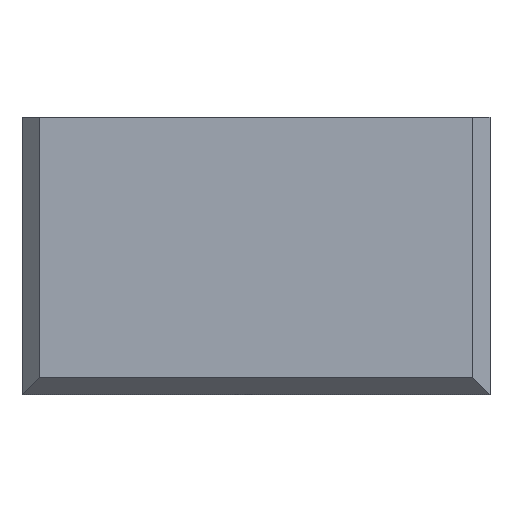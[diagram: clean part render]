
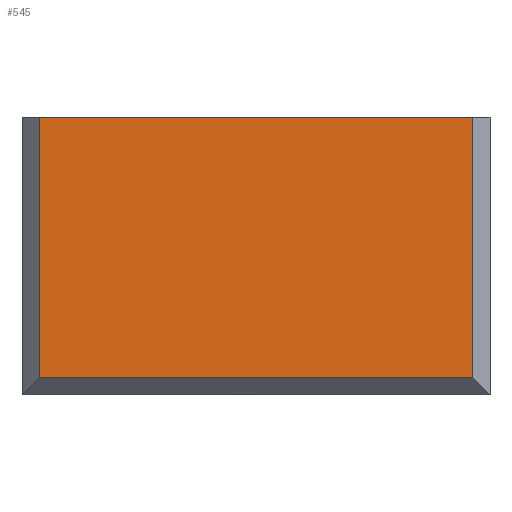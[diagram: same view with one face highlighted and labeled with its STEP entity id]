
A CAD part, front view. The second image highlights one B-rep face of the part: STEP entity #545.
In plain terms, the highlighted planar face has unit normal (0, -1, 0).
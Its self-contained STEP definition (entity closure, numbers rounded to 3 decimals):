
#18 = FACE_OUTER_BOUND ( 'NONE', #716, .T. ) ;
#33 = DIRECTION ( 'NONE',  ( 0., 1., 0. ) ) ;
#138 = CARTESIAN_POINT ( 'NONE',  ( 12.5, -4.25, 16. ) ) ;
#188 = VECTOR ( 'NONE', #325, 1000. ) ;
#197 = EDGE_CURVE ( 'NONE', #573, #354, #712, .T. ) ;
#209 = VECTOR ( 'NONE', #708, 1000. ) ;
#238 = EDGE_CURVE ( 'NONE', #573, #673, #617, .T. ) ;
#262 = ORIENTED_EDGE ( 'NONE', *, *, #238, .F. ) ;
#268 = EDGE_CURVE ( 'NONE', #354, #338, #649, .T. ) ;
#276 = CARTESIAN_POINT ( 'NONE',  ( -13.5, -4.25, 1. ) ) ;
#288 = EDGE_CURVE ( 'NONE', #338, #673, #435, .T. ) ;
#307 = ORIENTED_EDGE ( 'NONE', *, *, #197, .T. ) ;
#325 = DIRECTION ( 'NONE',  ( 0., 0., -1. ) ) ;
#338 = VERTEX_POINT ( 'NONE', #453 ) ;
#342 = ORIENTED_EDGE ( 'NONE', *, *, #288, .T. ) ;
#354 = VERTEX_POINT ( 'NONE', #618 ) ;
#380 = DIRECTION ( 'NONE',  ( 1., 0., 0. ) ) ;
#404 = CARTESIAN_POINT ( 'NONE',  ( -13.5, -4.25, 16. ) ) ;
#435 = LINE ( 'NONE', #138, #759 ) ;
#443 = CARTESIAN_POINT ( 'NONE',  ( -12.5, -4.25, 16. ) ) ;
#453 = CARTESIAN_POINT ( 'NONE',  ( 12.5, -4.25, 1. ) ) ;
#464 = CARTESIAN_POINT ( 'NONE',  ( -12.5, -4.25, 16. ) ) ;
#528 = CARTESIAN_POINT ( 'NONE',  ( 12.5, -4.25, 16. ) ) ;
#545 = ADVANCED_FACE ( 'NONE', ( #18 ), #598, .F. ) ;
#573 = VERTEX_POINT ( 'NONE', #464 ) ;
#592 = DIRECTION ( 'NONE',  ( 0., 0., 1. ) ) ;
#598 = PLANE ( 'NONE',  #616 ) ;
#599 = VECTOR ( 'NONE', #380, 1000. ) ;
#616 = AXIS2_PLACEMENT_3D ( 'NONE', #404, #33, #637 ) ;
#617 = LINE ( 'NONE', #769, #209 ) ;
#618 = CARTESIAN_POINT ( 'NONE',  ( -12.5, -4.25, 1. ) ) ;
#637 = DIRECTION ( 'NONE',  ( 0., 0., 1. ) ) ;
#644 = ORIENTED_EDGE ( 'NONE', *, *, #268, .T. ) ;
#649 = LINE ( 'NONE', #276, #599 ) ;
#673 = VERTEX_POINT ( 'NONE', #528 ) ;
#708 = DIRECTION ( 'NONE',  ( 1., 0., 0. ) ) ;
#712 = LINE ( 'NONE', #443, #188 ) ;
#716 = EDGE_LOOP ( 'NONE', ( #644, #342, #262, #307 ) ) ;
#759 = VECTOR ( 'NONE', #592, 1000. ) ;
#769 = CARTESIAN_POINT ( 'NONE',  ( -13.5, -4.25, 16. ) ) ;
